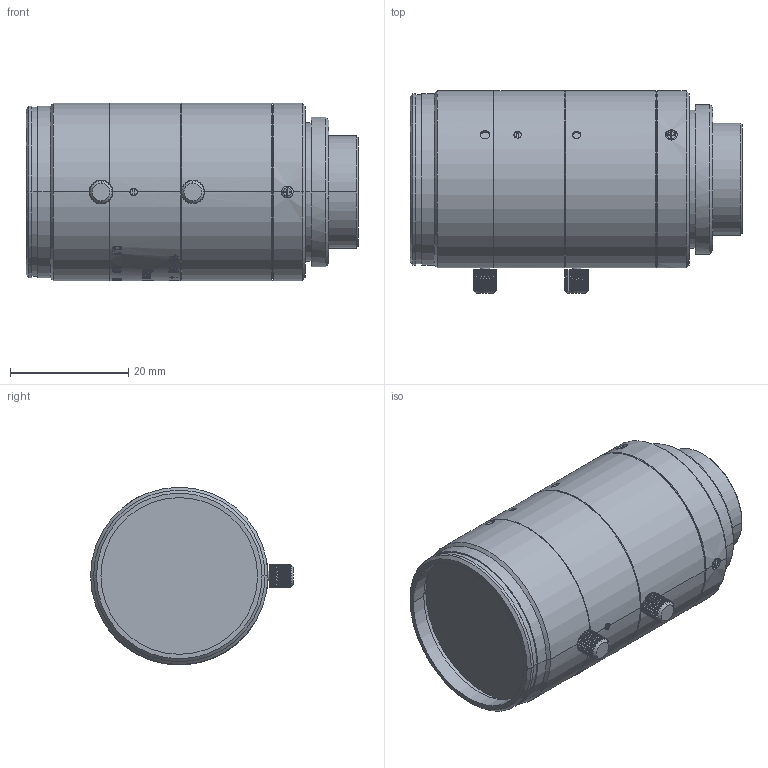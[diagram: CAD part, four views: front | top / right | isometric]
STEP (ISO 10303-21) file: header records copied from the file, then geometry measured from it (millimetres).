
FILE_DESCRIPTION((''),'2;1');
FILE_NAME('OPT-C0814-2M_ASM','2018-04-26T10:08:03',('dcsongs'),(''),'CREO PARAMETRIC BY PTC INC, 2017380','CREO PARAMETRIC BY PTC INC, 2017380','');
FILE_SCHEMA(('AUTOMOTIVE_DESIGN { 1 0 10303 214 1 1 1 1 }'));
Products named in the file (4): 8MM-2MP-C00_13_1; 8MM-2MP-C00_13_2; 8MM-2MP-C00_13_ASM; OPT-C0814-2M_ASM
Assembly tree (3 placements, depth 3):
  OPT-C0814-2M_ASM
    8MM-2MP-C00_13_ASM
      8MM-2MP-C00_13_1
      8MM-2MP-C00_13_2
Bounding box: 56.15 x 34.3 x 30.02 mm (x, y, z)
Volume: 35295 mm3; surface area: 8420.6 mm2
Topology: 2 solids, 2 shells, 1169 faces, 3309 edges, 2223 vertices
Faces by surface type: bspline 477, plane 361, cylinder 285, cone 32, extrusion 6, torus 6, sphere 2
Entity records: 54996 total; most frequent: CARTESIAN_POINT 22412, ORIENTED_EDGE 6614, DIRECTION 4138, EDGE_CURVE 3307, VERTEX_POINT 2223, VECTOR 1397, LINE 1391, AXIS2_PLACEMENT_3D 1365
